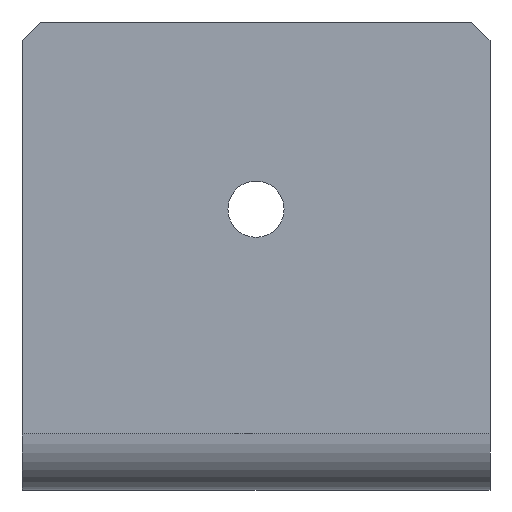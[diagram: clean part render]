
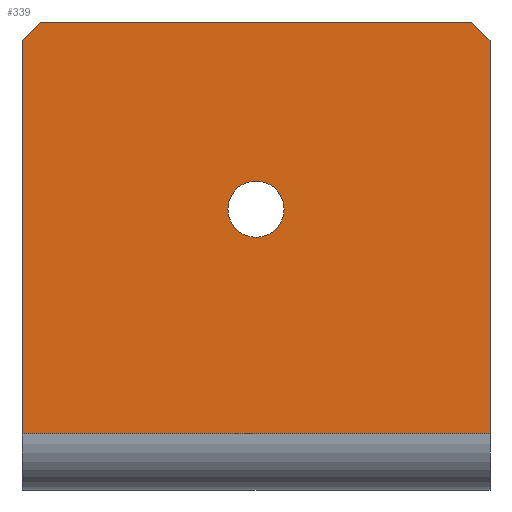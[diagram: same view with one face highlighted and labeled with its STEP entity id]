
A CAD part, front view. The second image highlights one B-rep face of the part: STEP entity #339.
In plain terms, the highlighted planar face has unit normal (0, -1, 0).
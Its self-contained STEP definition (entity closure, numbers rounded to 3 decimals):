
#20=FACE_BOUND('',#72,.T.);
#32=PLANE('',#380);
#49=FACE_OUTER_BOUND('',#71,.T.);
#71=EDGE_LOOP('',(#311,#312,#313,#314,#315,#316));
#72=EDGE_LOOP('',(#317));
#76=LINE('',#496,#111);
#83=LINE('',#512,#118);
#99=LINE('',#547,#134);
#100=LINE('',#550,#135);
#105=LINE('',#560,#140);
#107=LINE('',#563,#142);
#111=VECTOR('',#408,10.);
#118=VECTOR('',#421,10.);
#134=VECTOR('',#453,10.);
#135=VECTOR('',#456,10.);
#140=VECTOR('',#465,10.);
#142=VECTOR('',#469,10.);
#144=CIRCLE('',#356,3.);
#154=VERTEX_POINT('',#476);
#160=VERTEX_POINT('',#493);
#161=VERTEX_POINT('',#495);
#167=VERTEX_POINT('',#511);
#178=VERTEX_POINT('',#545);
#179=VERTEX_POINT('',#549);
#182=VERTEX_POINT('',#559);
#185=EDGE_CURVE('',#154,#154,#144,.T.);
#193=EDGE_CURVE('',#160,#161,#76,.T.);
#201=EDGE_CURVE('',#161,#167,#83,.T.);
#219=EDGE_CURVE('',#160,#178,#99,.T.);
#220=EDGE_CURVE('',#167,#179,#100,.T.);
#225=EDGE_CURVE('',#179,#182,#105,.T.);
#227=EDGE_CURVE('',#182,#178,#107,.T.);
#311=ORIENTED_EDGE('',*,*,#193,.F.);
#312=ORIENTED_EDGE('',*,*,#219,.T.);
#313=ORIENTED_EDGE('',*,*,#227,.F.);
#314=ORIENTED_EDGE('',*,*,#225,.F.);
#315=ORIENTED_EDGE('',*,*,#220,.F.);
#316=ORIENTED_EDGE('',*,*,#201,.F.);
#317=ORIENTED_EDGE('',*,*,#185,.T.);
#339=ADVANCED_FACE('',(#49,#20),#32,.T.);
#356=AXIS2_PLACEMENT_3D('',#478,#388,#389);
#380=AXIS2_PLACEMENT_3D('',#564,#470,#471);
#388=DIRECTION('center_axis',(0.,1.,0.));
#389=DIRECTION('ref_axis',(-1.,0.,0.));
#408=DIRECTION('',(-1.,0.,0.));
#421=DIRECTION('',(0.,0.,1.));
#453=DIRECTION('',(0.,0.,1.));
#456=DIRECTION('',(0.707,0.,0.707));
#465=DIRECTION('',(1.,0.,0.));
#469=DIRECTION('',(0.707,0.,-0.707));
#470=DIRECTION('center_axis',(0.,-1.,0.));
#471=DIRECTION('ref_axis',(1.,0.,0.));
#476=CARTESIAN_POINT('',(28.,0.,30.));
#478=CARTESIAN_POINT('Origin',(25.,0.,30.));
#493=CARTESIAN_POINT('',(50.,0.,6.));
#495=CARTESIAN_POINT('',(0.,0.,6.));
#496=CARTESIAN_POINT('',(12.5,0.,6.));
#511=CARTESIAN_POINT('',(0.,0.,48.));
#512=CARTESIAN_POINT('',(0.,0.,0.));
#545=CARTESIAN_POINT('',(50.,0.,48.));
#547=CARTESIAN_POINT('',(50.,0.,0.));
#549=CARTESIAN_POINT('',(2.,0.,50.));
#550=CARTESIAN_POINT('',(-11.5,0.,36.5));
#559=CARTESIAN_POINT('',(48.,0.,50.));
#560=CARTESIAN_POINT('',(0.,0.,50.));
#563=CARTESIAN_POINT('',(49.,0.,49.));
#564=CARTESIAN_POINT('Origin',(0.,0.,0.));
